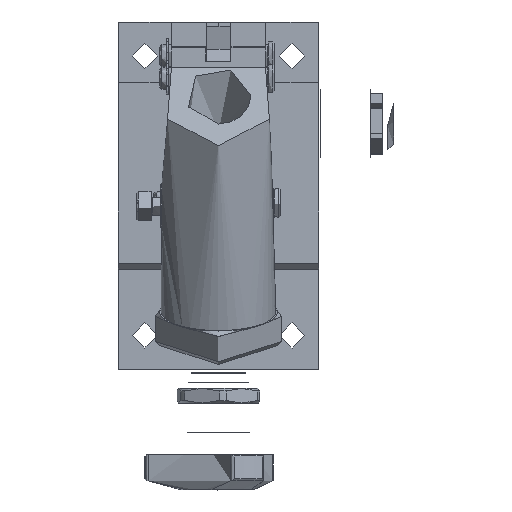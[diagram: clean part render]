
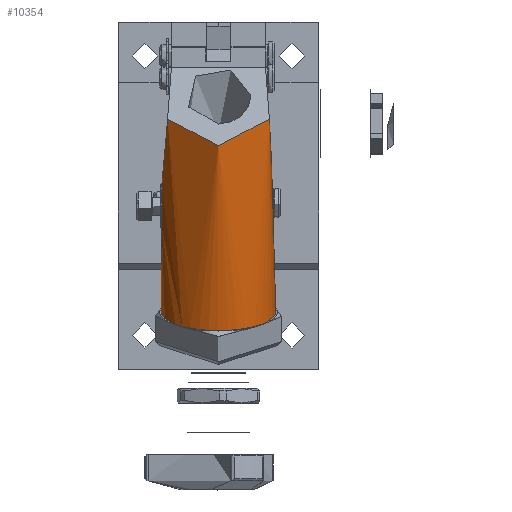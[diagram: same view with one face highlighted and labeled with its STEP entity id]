
A CAD part, top view. The second image highlights one B-rep face of the part: STEP entity #10354.
In plain terms, the highlighted cylindrical face has radius 19.48 mm (diameter 38.961 mm), a partial arc.
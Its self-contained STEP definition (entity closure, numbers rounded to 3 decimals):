
#57=ELLIPSE('',#10926,20.731,19.481);
#58=ELLIPSE('',#10931,20.731,19.481);
#59=ELLIPSE('',#10934,20.731,19.481);
#60=ELLIPSE('',#10937,22.494,19.481);
#61=ELLIPSE('',#10940,20.731,19.481);
#123=LINE('',#14611,#530);
#124=LINE('',#14612,#531);
#128=LINE('',#14622,#535);
#129=LINE('',#14624,#536);
#131=LINE('',#14630,#538);
#132=LINE('',#14634,#539);
#135=LINE('',#14642,#542);
#530=VECTOR('',#12119,1000.);
#531=VECTOR('',#12120,1000.);
#535=VECTOR('',#12130,1000.);
#536=VECTOR('',#12131,1000.);
#538=VECTOR('',#12139,1000.);
#539=VECTOR('',#12146,1000.);
#542=VECTOR('',#12155,1000.);
#881=B_SPLINE_CURVE_WITH_KNOTS('',3,(#14644,#14645,#14646,#14647,#14648,
#14649),.UNSPECIFIED.,.F.,.F.,(4,1,1,4),(0.039,0.043,
0.045,0.047),.UNSPECIFIED.);
#882=B_SPLINE_CURVE_WITH_KNOTS('',3,(#14651,#14652,#14653,#14654,#14655),
 .UNSPECIFIED.,.F.,.F.,(4,1,4),(0.,0.004,0.009),
 .UNSPECIFIED.);
#883=B_SPLINE_CURVE_WITH_KNOTS('',3,(#14659,#14660,#14661,#14662,#14663),
 .UNSPECIFIED.,.F.,.F.,(4,1,4),(0.032,0.035,0.039),
 .UNSPECIFIED.);
#884=B_SPLINE_CURVE_WITH_KNOTS('',3,(#14665,#14666,#14667,#14668,#14669,
#14670,#14671),.UNSPECIFIED.,.F.,.F.,(4,1,1,1,4),(0.015,0.019,
0.024,0.028,0.032),.UNSPECIFIED.);
#885=B_SPLINE_CURVE_WITH_KNOTS('',3,(#14673,#14674,#14675,#14676,#14677),
 .UNSPECIFIED.,.F.,.F.,(4,1,4),(0.009,0.012,
0.015),.UNSPECIFIED.);
#1507=ORIENTED_EDGE('',*,*,#3483,.F.);
#1508=ORIENTED_EDGE('',*,*,#3482,.T.);
#1509=ORIENTED_EDGE('',*,*,#3479,.T.);
#1510=ORIENTED_EDGE('',*,*,#3478,.T.);
#1511=ORIENTED_EDGE('',*,*,#3477,.F.);
#1512=ORIENTED_EDGE('',*,*,#3475,.T.);
#1513=ORIENTED_EDGE('',*,*,#3474,.F.);
#1514=ORIENTED_EDGE('',*,*,#3484,.F.);
#1515=ORIENTED_EDGE('',*,*,#3487,.F.);
#1516=ORIENTED_EDGE('',*,*,#3488,.F.);
#1517=ORIENTED_EDGE('',*,*,#3489,.F.);
#1518=ORIENTED_EDGE('',*,*,#3485,.F.);
#1519=ORIENTED_EDGE('',*,*,#3473,.F.);
#1520=ORIENTED_EDGE('',*,*,#3471,.F.);
#1521=ORIENTED_EDGE('',*,*,#3468,.T.);
#1522=ORIENTED_EDGE('',*,*,#3465,.T.);
#1523=ORIENTED_EDGE('',*,*,#3467,.T.);
#1524=ORIENTED_EDGE('',*,*,#3463,.F.);
#3463=EDGE_CURVE('',#4483,#4484,#57,.T.);
#3465=EDGE_CURVE('',#4485,#4486,#5211,.T.);
#3467=EDGE_CURVE('',#4486,#4484,#123,.F.);
#3468=EDGE_CURVE('',#4487,#4485,#124,.T.);
#3471=EDGE_CURVE('',#4487,#4488,#58,.T.);
#3473=EDGE_CURVE('',#4488,#4490,#128,.F.);
#3474=EDGE_CURVE('',#4490,#4489,#129,.F.);
#3475=EDGE_CURVE('',#4491,#4489,#59,.T.);
#3477=EDGE_CURVE('',#4491,#4464,#131,.F.);
#3478=EDGE_CURVE('',#4465,#4464,#60,.T.);
#3479=EDGE_CURVE('',#4492,#4465,#132,.F.);
#3482=EDGE_CURVE('',#4493,#4492,#61,.T.);
#3483=EDGE_CURVE('',#4493,#4483,#135,.T.);
#3484=EDGE_CURVE('',#4494,#4490,#881,.T.);
#3485=EDGE_CURVE('',#4490,#4495,#882,.T.);
#3487=EDGE_CURVE('',#4496,#4494,#883,.T.);
#3488=EDGE_CURVE('',#4497,#4496,#884,.T.);
#3489=EDGE_CURVE('',#4495,#4497,#885,.T.);
#4464=VERTEX_POINT('',#14542);
#4465=VERTEX_POINT('',#14544);
#4483=VERTEX_POINT('',#14601);
#4484=VERTEX_POINT('',#14603);
#4485=VERTEX_POINT('',#14607);
#4486=VERTEX_POINT('',#14608);
#4487=VERTEX_POINT('',#14613);
#4488=VERTEX_POINT('',#14617);
#4489=VERTEX_POINT('',#14621);
#4490=VERTEX_POINT('',#14623);
#4491=VERTEX_POINT('',#14627);
#4492=VERTEX_POINT('',#14635);
#4493=VERTEX_POINT('',#14639);
#4494=VERTEX_POINT('',#14650);
#4495=VERTEX_POINT('',#14656);
#4496=VERTEX_POINT('',#14664);
#4497=VERTEX_POINT('',#14672);
#5211=CIRCLE('',#10928,19.481);
#5762=EDGE_LOOP('',(#1507,#1508,#1509,#1510,#1511,#1512,#1513,#1514,#1515,
#1516,#1517,#1518,#1519,#1520,#1521,#1522,#1523,#1524));
#6563=FACE_BOUND('',#5762,.T.);
#7305=CYLINDRICAL_SURFACE('',#10944,19.481);
#10354=ADVANCED_FACE('',(#6563),#7305,.T.);
#10926=AXIS2_PLACEMENT_3D('',#14602,#12109,#12110);
#10928=AXIS2_PLACEMENT_3D('',#14606,#12114,#12115);
#10931=AXIS2_PLACEMENT_3D('',#14618,#12125,#12126);
#10934=AXIS2_PLACEMENT_3D('',#14626,#12134,#12135);
#10937=AXIS2_PLACEMENT_3D('',#14632,#12142,#12143);
#10940=AXIS2_PLACEMENT_3D('',#14640,#12151,#12152);
#10944=AXIS2_PLACEMENT_3D('',#14658,#12160,#12161);
#12109=DIRECTION('',(0.,0.78,0.626));
#12110=DIRECTION('',(0.,-0.626,0.78));
#12114=DIRECTION('',(0.,0.947,0.321));
#12115=DIRECTION('',(0.,-0.321,0.947));
#12119=DIRECTION('',(0.,-0.947,-0.321));
#12120=DIRECTION('',(0.,-0.947,-0.321));
#12125=DIRECTION('',(0.,0.78,0.626));
#12126=DIRECTION('',(0.,-0.626,0.78));
#12130=DIRECTION('',(0.,-0.947,-0.321));
#12131=DIRECTION('',(0.,-0.947,-0.321));
#12134=DIRECTION('',(0.,1.,-0.022));
#12135=DIRECTION('',(0.,-0.022,-1.));
#12139=DIRECTION('',(0.,-0.947,-0.321));
#12142=DIRECTION('',(0.,-0.659,-0.752));
#12143=DIRECTION('',(0.,-0.752,0.659));
#12146=DIRECTION('',(0.,-0.947,-0.321));
#12151=DIRECTION('',(0.,1.,-0.022));
#12152=DIRECTION('',(0.,-0.022,-1.));
#12155=DIRECTION('',(0.,-0.947,-0.321));
#12160=DIRECTION('',(0.,-0.947,-0.321));
#12161=DIRECTION('',(0.,0.321,-0.947));
#14542=CARTESIAN_POINT('',(-15.984,102.314,111.865));
#14544=CARTESIAN_POINT('',(15.984,102.314,111.865));
#14601=CARTESIAN_POINT('',(17.982,22.743,88.714));
#14602=CARTESIAN_POINT('',(0.,17.753,94.933));
#14603=CARTESIAN_POINT('',(7.492,29.728,80.007));
#14606=CARTESIAN_POINT('',(0.,19.27,95.448));
#14607=CARTESIAN_POINT('',(-7.493,25.047,78.419));
#14608=CARTESIAN_POINT('',(7.492,25.047,78.419));
#14611=CARTESIAN_POINT('',(7.492,104.514,105.381));
#14612=CARTESIAN_POINT('',(-7.493,104.514,105.381));
#14613=CARTESIAN_POINT('',(-7.493,29.728,80.007));
#14617=CARTESIAN_POINT('',(-17.982,22.743,88.714));
#14618=CARTESIAN_POINT('',(0.,17.753,94.933));
#14621=CARTESIAN_POINT('',(-17.982,71.231,105.166));
#14622=CARTESIAN_POINT('',(-17.982,101.144,115.315));
#14623=CARTESIAN_POINT('',(-17.982,57.626,100.55));
#14624=CARTESIAN_POINT('',(-17.982,101.144,115.315));
#14626=CARTESIAN_POINT('',(0.,71.406,113.137));
#14627=CARTESIAN_POINT('',(-15.984,71.146,101.29));
#14630=CARTESIAN_POINT('',(-15.984,102.314,111.865));
#14632=CARTESIAN_POINT('',(0.,92.648,120.344));
#14634=CARTESIAN_POINT('',(15.984,102.314,111.865));
#14635=CARTESIAN_POINT('',(15.984,71.146,101.29));
#14639=CARTESIAN_POINT('',(17.982,71.231,105.166));
#14640=CARTESIAN_POINT('',(0.,71.406,113.137));
#14642=CARTESIAN_POINT('',(17.982,101.144,115.315));
#14644=CARTESIAN_POINT('',(-19.231,62.673,106.891));
#14645=CARTESIAN_POINT('',(-19.021,62.53,105.471));
#14646=CARTESIAN_POINT('',(-18.538,61.699,103.425));
#14647=CARTESIAN_POINT('',(-18.071,59.596,101.439));
#14648=CARTESIAN_POINT('',(-17.982,58.317,100.784));
#14649=CARTESIAN_POINT('',(-17.982,57.626,100.55));
#14650=CARTESIAN_POINT('',(-19.231,62.673,106.891));
#14651=CARTESIAN_POINT('',(-17.982,57.626,100.55));
#14652=CARTESIAN_POINT('',(-17.982,56.245,100.081));
#14653=CARTESIAN_POINT('',(-18.372,53.283,99.981));
#14654=CARTESIAN_POINT('',(-19.022,50.736,101.476));
#14655=CARTESIAN_POINT('',(-19.231,49.763,102.51));
#14656=CARTESIAN_POINT('',(-19.231,49.763,102.51));
#14658=CARTESIAN_POINT('',(0.,98.736,122.41));
#14659=CARTESIAN_POINT('',(-19.231,60.675,112.78));
#14660=CARTESIAN_POINT('',(-19.388,61.408,112.001));
#14661=CARTESIAN_POINT('',(-19.574,62.534,110.131));
#14662=CARTESIAN_POINT('',(-19.387,62.78,107.945));
#14663=CARTESIAN_POINT('',(-19.231,62.673,106.891));
#14664=CARTESIAN_POINT('',(-19.231,60.675,112.78));
#14665=CARTESIAN_POINT('',(-19.231,47.765,108.399));
#14666=CARTESIAN_POINT('',(-19.02,47.909,109.828));
#14667=CARTESIAN_POINT('',(-18.374,49.006,112.532));
#14668=CARTESIAN_POINT('',(-17.786,52.666,115.149));
#14669=CARTESIAN_POINT('',(-18.373,57.175,115.305));
#14670=CARTESIAN_POINT('',(-19.019,59.69,113.827));
#14671=CARTESIAN_POINT('',(-19.231,60.675,112.78));
#14672=CARTESIAN_POINT('',(-19.231,47.765,108.399));
#14673=CARTESIAN_POINT('',(-19.231,49.763,102.51));
#14674=CARTESIAN_POINT('',(-19.386,49.04,103.278));
#14675=CARTESIAN_POINT('',(-19.574,47.902,105.157));
#14676=CARTESIAN_POINT('',(-19.388,47.657,107.338));
#14677=CARTESIAN_POINT('',(-19.231,47.765,108.399));
